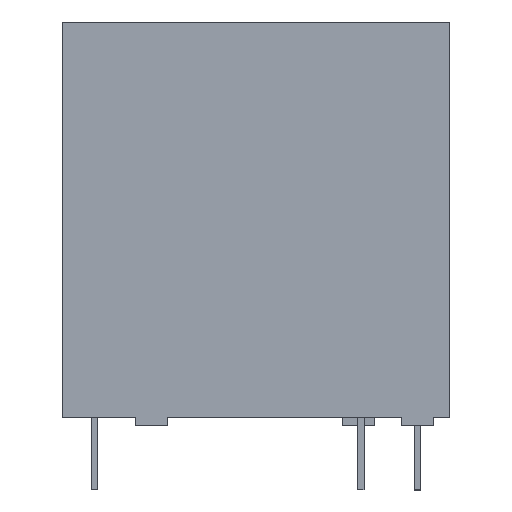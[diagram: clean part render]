
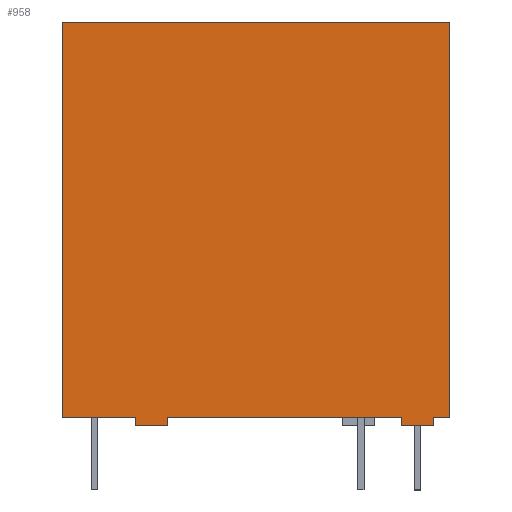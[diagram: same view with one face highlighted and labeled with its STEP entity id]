
A CAD part, top view. The second image highlights one B-rep face of the part: STEP entity #958.
In plain terms, the highlighted planar face has unit normal (0, 0, 1).
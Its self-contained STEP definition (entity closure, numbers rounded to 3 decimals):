
#1 = LINE ( 'NONE', #2, #3 ) ;
#2 = CARTESIAN_POINT ( 'NONE',  ( 22., 25., 5.25 ) ) ;
#3 = VECTOR ( 'NONE', #4, 1000. ) ;
#4 = DIRECTION ( 'NONE',  ( 0., -1., 0. ) ) ;
#13 = FACE_OUTER_BOUND ( 'NONE', #1663, .T. ) ;
#14 = PLANE ( 'NONE',  #15 ) ;
#15 = AXIS2_PLACEMENT_3D ( 'NONE', #16, #19, #20 ) ;
#16 = CARTESIAN_POINT ( 'NONE',  ( -2., 25., 5.25 ) ) ;
#19 = DIRECTION ( 'NONE',  ( 0., 0., -1. ) ) ;
#20 = DIRECTION ( 'NONE',  ( -1., 0., 0. ) ) ;
#106 = CARTESIAN_POINT ( 'NONE',  ( 22., 25., 5.25 ) ) ;
#107 = LINE ( 'NONE', #108, #109 ) ;
#108 = CARTESIAN_POINT ( 'NONE',  ( 4.53, -2.094, 5.25 ) ) ;
#109 = VECTOR ( 'NONE', #110, 1000. ) ;
#110 = DIRECTION ( 'NONE',  ( 0., 1., 0. ) ) ;
#137 = VERTEX_POINT ( 'NONE', #1107 ) ;
#192 = EDGE_CURVE ( 'NONE', #1018, #980, #1144, .T. ) ;
#325 = CARTESIAN_POINT ( 'NONE',  ( -2., 25., 5.25 ) ) ;
#326 = LINE ( 'NONE', #327, #328 ) ;
#327 = CARTESIAN_POINT ( 'NONE',  ( 21., -2.094, 5.25 ) ) ;
#328 = VECTOR ( 'NONE', #329, 1000. ) ;
#329 = DIRECTION ( 'NONE',  ( 0., 1., 0. ) ) ;
#350 = CARTESIAN_POINT ( 'NONE',  ( 21., 0.5, 5.25 ) ) ;
#352 = LINE ( 'NONE', #353, #354 ) ;
#353 = CARTESIAN_POINT ( 'NONE',  ( -2., 0.5, 5.25 ) ) ;
#354 = VECTOR ( 'NONE', #355, 1000. ) ;
#355 = DIRECTION ( 'NONE',  ( 1., 0., 0. ) ) ;
#492 = CARTESIAN_POINT ( 'NONE',  ( 4.53, 0.5, 5.25 ) ) ;
#558 = CARTESIAN_POINT ( 'NONE',  ( 2.53, 0., 5.25 ) ) ;
#591 = LINE ( 'NONE', #592, #593 ) ;
#592 = CARTESIAN_POINT ( 'NONE',  ( 19., -2.094, 5.25 ) ) ;
#593 = VECTOR ( 'NONE', #594, 1000. ) ;
#594 = DIRECTION ( 'NONE',  ( 0., 1., 0. ) ) ;
#621 = CARTESIAN_POINT ( 'NONE',  ( 19., 0., 5.25 ) ) ;
#672 = LINE ( 'NONE', #673, #674 ) ;
#673 = CARTESIAN_POINT ( 'NONE',  ( 2.53, 0., 5.25 ) ) ;
#674 = VECTOR ( 'NONE', #675, 1000. ) ;
#675 = DIRECTION ( 'NONE',  ( 1., 0., 0. ) ) ;
#678 = ORIENTED_EDGE ( 'NONE', *, *, #957, .F. ) ;
#713 = EDGE_CURVE ( 'NONE', #1771, #730, #1418, .T. ) ;
#730 = VERTEX_POINT ( 'NONE', #1432 ) ;
#768 = ORIENTED_EDGE ( 'NONE', *, *, #786, .T. ) ;
#786 = EDGE_CURVE ( 'NONE', #1679, #1771, #326, .T. ) ;
#797 = ORIENTED_EDGE ( 'NONE', *, *, #818, .T. ) ;
#804 = ORIENTED_EDGE ( 'NONE', *, *, #846, .F. ) ;
#809 = ORIENTED_EDGE ( 'NONE', *, *, #1726, .T. ) ;
#812 = VERTEX_POINT ( 'NONE', #621 ) ;
#818 = EDGE_CURVE ( 'NONE', #1134, #841, #672, .T. ) ;
#841 = VERTEX_POINT ( 'NONE', #1519 ) ;
#846 = EDGE_CURVE ( 'NONE', #1134, #137, #1555, .T. ) ;
#871 = VERTEX_POINT ( 'NONE', #1066 ) ;
#957 = EDGE_CURVE ( 'NONE', #980, #730, #1, .T. ) ;
#958 = ADVANCED_FACE ( 'NONE', ( #13 ), #14, .F. ) ;
#965 = ORIENTED_EDGE ( 'NONE', *, *, #1662, .T. ) ;
#980 = VERTEX_POINT ( 'NONE', #106 ) ;
#1013 = ORIENTED_EDGE ( 'NONE', *, *, #192, .F. ) ;
#1018 = VERTEX_POINT ( 'NONE', #325 ) ;
#1066 = CARTESIAN_POINT ( 'NONE',  ( 19., 0.5, 5.25 ) ) ;
#1088 = LINE ( 'NONE', #1089, #1090 ) ;
#1089 = CARTESIAN_POINT ( 'NONE',  ( 19., 0., 5.25 ) ) ;
#1090 = VECTOR ( 'NONE', #1091, 1000. ) ;
#1091 = DIRECTION ( 'NONE',  ( 1., 0., 0. ) ) ;
#1107 = CARTESIAN_POINT ( 'NONE',  ( 2.53, 0.5, 5.25 ) ) ;
#1134 = VERTEX_POINT ( 'NONE', #558 ) ;
#1144 = LINE ( 'NONE', #1145, #1146 ) ;
#1145 = CARTESIAN_POINT ( 'NONE',  ( -2., 25., 5.25 ) ) ;
#1146 = VECTOR ( 'NONE', #1147, 1000. ) ;
#1147 = DIRECTION ( 'NONE',  ( 1., 0., 0. ) ) ;
#1207 = CARTESIAN_POINT ( 'NONE',  ( 21., 0., 5.25 ) ) ;
#1228 = ORIENTED_EDGE ( 'NONE', *, *, #1706, .T. ) ;
#1311 = LINE ( 'NONE', #1312, #1313 ) ;
#1312 = CARTESIAN_POINT ( 'NONE',  ( -2., 0.5, 5.25 ) ) ;
#1313 = VECTOR ( 'NONE', #1314, 1000. ) ;
#1314 = DIRECTION ( 'NONE',  ( 1., 0., 0. ) ) ;
#1406 = ORIENTED_EDGE ( 'NONE', *, *, #713, .T. ) ;
#1418 = LINE ( 'NONE', #1419, #1420 ) ;
#1419 = CARTESIAN_POINT ( 'NONE',  ( -2., 0.5, 5.25 ) ) ;
#1420 = VECTOR ( 'NONE', #1421, 1000. ) ;
#1421 = DIRECTION ( 'NONE',  ( 1., 0., 0. ) ) ;
#1432 = CARTESIAN_POINT ( 'NONE',  ( 22., 0.5, 5.25 ) ) ;
#1449 = CARTESIAN_POINT ( 'NONE',  ( -2., 0.5, 5.25 ) ) ;
#1496 = LINE ( 'NONE', #1497, #1498 ) ;
#1497 = CARTESIAN_POINT ( 'NONE',  ( -2., 25., 5.25 ) ) ;
#1498 = VECTOR ( 'NONE', #1499, 1000. ) ;
#1499 = DIRECTION ( 'NONE',  ( 0., -1., 0. ) ) ;
#1519 = CARTESIAN_POINT ( 'NONE',  ( 4.53, 0., 5.25 ) ) ;
#1555 = LINE ( 'NONE', #1556, #1557 ) ;
#1556 = CARTESIAN_POINT ( 'NONE',  ( 2.53, -2.094, 5.25 ) ) ;
#1557 = VECTOR ( 'NONE', #1558, 1000. ) ;
#1558 = DIRECTION ( 'NONE',  ( 0., 1., 0. ) ) ;
#1662 = EDGE_CURVE ( 'NONE', #812, #1679, #1088, .T. ) ;
#1663 = EDGE_LOOP ( 'NONE', ( #1228, #804, #797, #1735, #1772, #1767, #965, #768, #1406, #678, #1013, #809 ) ) ;
#1679 = VERTEX_POINT ( 'NONE', #1207 ) ;
#1706 = EDGE_CURVE ( 'NONE', #1720, #137, #1311, .T. ) ;
#1720 = VERTEX_POINT ( 'NONE', #1449 ) ;
#1726 = EDGE_CURVE ( 'NONE', #1018, #1720, #1496, .T. ) ;
#1735 = ORIENTED_EDGE ( 'NONE', *, *, #1741, .T. ) ;
#1741 = EDGE_CURVE ( 'NONE', #841, #1783, #107, .T. ) ;
#1767 = ORIENTED_EDGE ( 'NONE', *, *, #1795, .F. ) ;
#1771 = VERTEX_POINT ( 'NONE', #350 ) ;
#1772 = ORIENTED_EDGE ( 'NONE', *, *, #1773, .T. ) ;
#1773 = EDGE_CURVE ( 'NONE', #1783, #871, #352, .T. ) ;
#1783 = VERTEX_POINT ( 'NONE', #492 ) ;
#1795 = EDGE_CURVE ( 'NONE', #812, #871, #591, .T. ) ;
